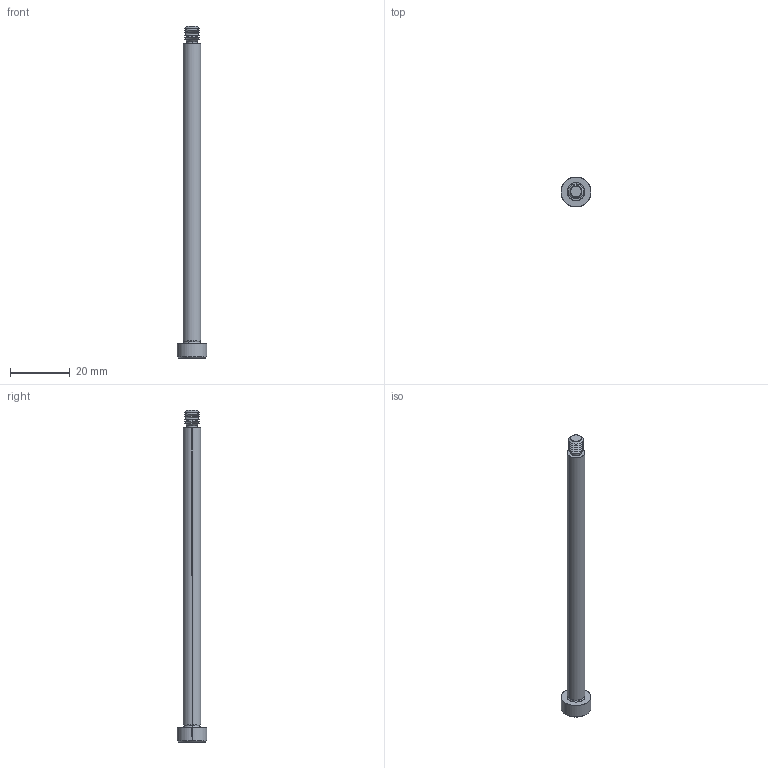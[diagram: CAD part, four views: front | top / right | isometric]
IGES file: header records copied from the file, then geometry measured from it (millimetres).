
Start section: SolidWorks IGES file using analytic representation for surfaces
Global section: file name: C:\Users\IanO\Documents\Temp Folder\GENERAL\SCREW REVISION\P0130_v2\P0130.T5_v2_20220106_IGES\P0130.060-100-T5.igs; native system: SolidWorks 2019; preprocessor: SolidWorks 2019; author: IanO; date: 220106.222934; units: millimetre
Bounding box: 10 x 10 x 111 mm (x, y, z)
Surface area: 2372.5 mm2 (no closed solid volume)
Topology: 0 solids, 0 shells, 64 faces, 504 edges, 502 vertices
Faces by surface type: revolution 44, bspline 20
